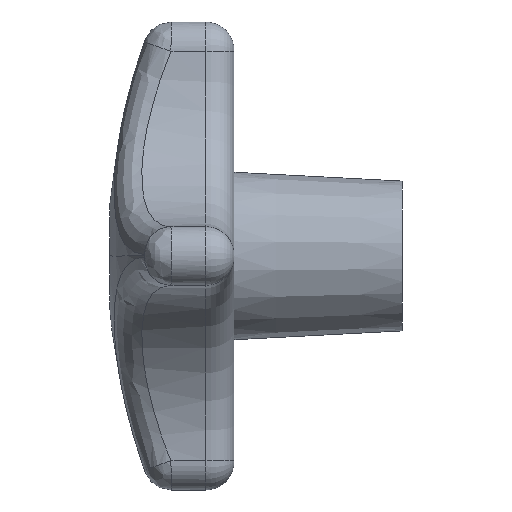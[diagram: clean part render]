
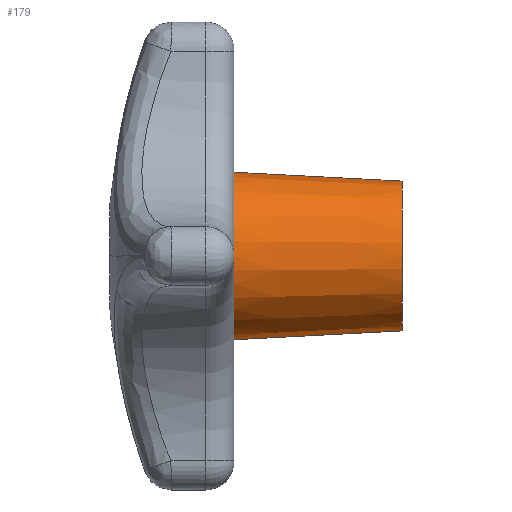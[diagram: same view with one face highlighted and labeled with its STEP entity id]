
A CAD part, left-side view. The second image highlights one B-rep face of the part: STEP entity #179.
In plain terms, the highlighted conical face has half-angle 3 degrees and reference radius 16 mm.
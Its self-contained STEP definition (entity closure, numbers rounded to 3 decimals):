
#71 = VERTEX_POINT ( 'NONE', #725 ) ;
#123 = VERTEX_POINT ( 'NONE', #948 ) ;
#125 = EDGE_CURVE ( 'NONE', #123, #126, #911, .T. ) ;
#126 = VERTEX_POINT ( 'NONE', #907 ) ;
#129 = VERTEX_POINT ( 'NONE', #973 ) ;
#131 = EDGE_CURVE ( 'NONE', #71, #129, #972, .T. ) ;
#178 = EDGE_CURVE ( 'NONE', #126, #129, #1097, .T. ) ;
#179 = ADVANCED_FACE ( 'NONE', ( #1092 ), #1091, .T. ) ;
#180 = ORIENTED_EDGE ( 'NONE', *, *, #125, .F. ) ;
#181 = ORIENTED_EDGE ( 'NONE', *, *, #182, .T. ) ;
#182 = EDGE_CURVE ( 'NONE', #123, #71, #1153, .T. ) ;
#183 = ORIENTED_EDGE ( 'NONE', *, *, #131, .T. ) ;
#184 = ORIENTED_EDGE ( 'NONE', *, *, #178, .F. ) ;
#234 = EDGE_LOOP ( 'NONE', ( #180, #181, #183, #184 ) ) ;
#725 = CARTESIAN_POINT ( 'NONE',  ( 0., -36., 16. ) ) ;
#907 = CARTESIAN_POINT ( 'NONE',  ( 0., 0., -17.887 ) ) ;
#908 = DIRECTION ( 'NONE',  ( 0., 0.999, -0.052 ) ) ;
#909 = VECTOR ( 'NONE', #908, 1000. ) ;
#910 = CARTESIAN_POINT ( 'NONE',  ( 0., -36., -16. ) ) ;
#911 = LINE ( 'NONE', #910, #909 ) ;
#948 = CARTESIAN_POINT ( 'NONE',  ( 0., -36., -16. ) ) ;
#969 = DIRECTION ( 'NONE',  ( 0., 0.999, 0.052 ) ) ;
#970 = VECTOR ( 'NONE', #969, 1000. ) ;
#971 = CARTESIAN_POINT ( 'NONE',  ( 0., -36., 16. ) ) ;
#972 = LINE ( 'NONE', #971, #970 ) ;
#973 = CARTESIAN_POINT ( 'NONE',  ( 0., 0., 17.887 ) ) ;
#1088 = CARTESIAN_POINT ( 'NONE',  ( 0., -36., 0. ) ) ;
#1089 = AXIS2_PLACEMENT_3D ( 'NONE', #1088, #1090, #1152 ) ;
#1090 = DIRECTION ( 'NONE',  ( 0., 1., 0. ) ) ;
#1091 = CONICAL_SURFACE ( 'NONE', #1089, 16., 0.052 ) ;
#1092 = FACE_OUTER_BOUND ( 'NONE', #234, .T. ) ;
#1093 = DIRECTION ( 'NONE',  ( 0., 0., 1. ) ) ;
#1094 = DIRECTION ( 'NONE',  ( 0., 1., 0. ) ) ;
#1095 = CARTESIAN_POINT ( 'NONE',  ( 0., 0., 0. ) ) ;
#1096 = AXIS2_PLACEMENT_3D ( 'NONE', #1095, #1094, #1093 ) ;
#1097 = CIRCLE ( 'NONE', #1096, 17.887 ) ;
#1148 = DIRECTION ( 'NONE',  ( 0., 0., 1. ) ) ;
#1149 = DIRECTION ( 'NONE',  ( 0., 1., 0. ) ) ;
#1150 = CARTESIAN_POINT ( 'NONE',  ( 0., -36., 0. ) ) ;
#1151 = AXIS2_PLACEMENT_3D ( 'NONE', #1150, #1149, #1148 ) ;
#1152 = DIRECTION ( 'NONE',  ( 0., 0., 1. ) ) ;
#1153 = CIRCLE ( 'NONE', #1151, 16. ) ;
